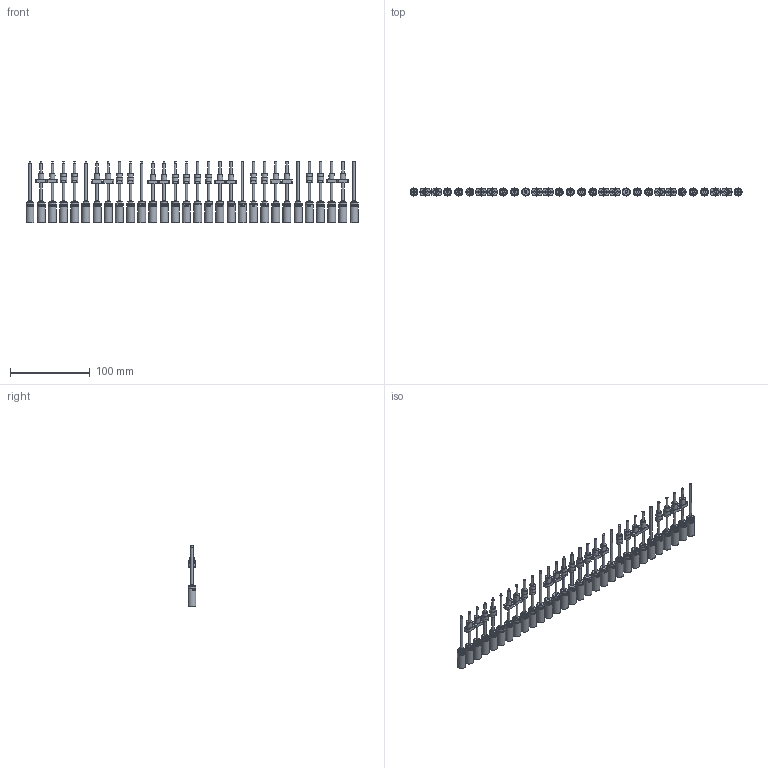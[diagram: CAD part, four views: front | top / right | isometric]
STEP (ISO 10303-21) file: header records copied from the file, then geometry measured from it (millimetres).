
FILE_DESCRIPTION(/* description */ (''),/* implementation_level */ '2;1');
FILE_NAME(/* name */ '10L-5stage_HL_standard_KWNx_KWS1_KFx.stp',/* time_stamp */ '2024-07-22T10:38:42+02:00',/* author */ ('DR. FRITZ FAULHABER GmbH & Co. KG'),/* organization */ ('DR. FRITZ FAULHABER GmbH & Co. KG'),/* preprocessor_version */ 'ST-DEVELOPER v19.3',/* originating_system */ 'SIEMENS PLM Software NX2212.4000',/* authorisation */ '');
FILE_SCHEMA (('AUTOMOTIVE_DESIGN { 1 0 10303 214 3 1 1 1 }'));
Length unit declared in the file: millimetre
Products named in the file (1): C_objects
Bounding box: 416 x 10 x 76.65 mm (x, y, z)
Volume: 80386.7 mm3; surface area: 54323.6 mm2
Topology: 30 solids, 30 shells, 3781 faces, 9264 edges, 6182 vertices
Faces by surface type: plane 2130, bspline 866, cylinder 735, cone 50
Full cylindrical faces by diameter (mm): 0.95 x40, 1.8 x24, 2 x14, 2.4 x30, 3 x54, 3.12 x30, 3.52 x30, 4.959 x30, 6 x30, 7 x44, 8 x12, 8.5 x10, 9.2 x10, 9.8 x30, 10 x70
Entity records: 158379 total; most frequent: CARTESIAN_POINT 62522, ORIENTED_EDGE 17256, DIRECTION 11726, EDGE_CURVE 8628, VERTEX_POINT 6060, EDGE_LOOP 4982, AXIS2_PLACEMENT_3D 4856, B_SPLINE_CURVE_WITH_KNOTS 4674
